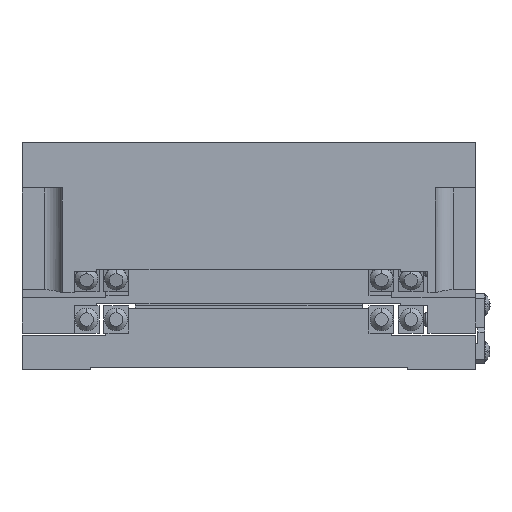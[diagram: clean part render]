
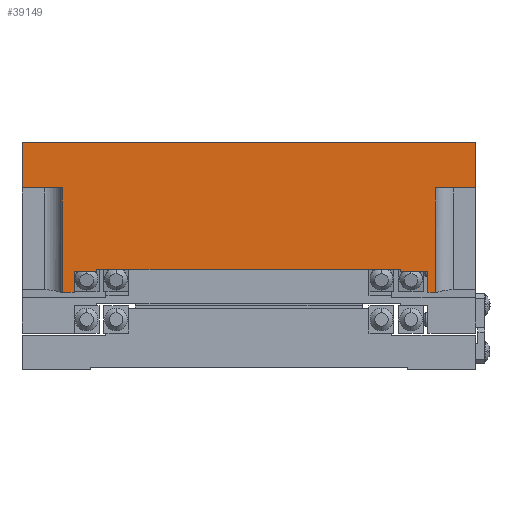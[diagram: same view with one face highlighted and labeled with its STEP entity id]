
A CAD part, left-side view. The second image highlights one B-rep face of the part: STEP entity #39149.
In plain terms, the highlighted planar face has unit normal (-1, 0, 0).
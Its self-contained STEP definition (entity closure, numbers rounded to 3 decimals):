
#19917 = EDGE_CURVE ( 'NONE', #23195, #23204, #57842, .T. ) ;
#19926 = EDGE_CURVE ( 'NONE', #23195, #23205, #57875, .T. ) ;
#19950 = EDGE_CURVE ( 'NONE', #23148, #23225, #57963, .T. ) ;
#19952 = EDGE_CURVE ( 'NONE', #23238, #23148, #57976, .T. ) ;
#19954 = EDGE_CURVE ( 'NONE', #23241, #23238, #57969, .T. ) ;
#19957 = EDGE_CURVE ( 'NONE', #23241, #23252, #57984, .T. ) ;
#19959 = EDGE_CURVE ( 'NONE', #23252, #23254, #57999, .T. ) ;
#19961 = EDGE_CURVE ( 'NONE', #23245, #23254, #58001, .T. ) ;
#19964 = EDGE_CURVE ( 'NONE', #23245, #23204, #58011, .T. ) ;
#19966 = EDGE_CURVE ( 'NONE', #23214, #23205, #58026, .T. ) ;
#19968 = EDGE_CURVE ( 'NONE', #23214, #23267, #58028, .T. ) ;
#19971 = EDGE_CURVE ( 'NONE', #23267, #23271, #58045, .T. ) ;
#19973 = EDGE_CURVE ( 'NONE', #23271, #23273, #58051, .T. ) ;
#19975 = EDGE_CURVE ( 'NONE', #23273, #23279, #58053, .T. ) ;
#19978 = EDGE_CURVE ( 'NONE', #23279, #23282, #58070, .T. ) ;
#19980 = EDGE_CURVE ( 'NONE', #23282, #23225, #58078, .T. ) ;
#23148 = VERTEX_POINT ( 'NONE', #34746 ) ;
#23195 = VERTEX_POINT ( 'NONE', #34903 ) ;
#23204 = VERTEX_POINT ( 'NONE', #34943 ) ;
#23205 = VERTEX_POINT ( 'NONE', #34937 ) ;
#23214 = VERTEX_POINT ( 'NONE', #34966 ) ;
#23225 = VERTEX_POINT ( 'NONE', #34997 ) ;
#23238 = VERTEX_POINT ( 'NONE', #35015 ) ;
#23241 = VERTEX_POINT ( 'NONE', #35021 ) ;
#23245 = VERTEX_POINT ( 'NONE', #35033 ) ;
#23252 = VERTEX_POINT ( 'NONE', #35066 ) ;
#23254 = VERTEX_POINT ( 'NONE', #35071 ) ;
#23267 = VERTEX_POINT ( 'NONE', #35086 ) ;
#23271 = VERTEX_POINT ( 'NONE', #35112 ) ;
#23273 = VERTEX_POINT ( 'NONE', #35116 ) ;
#23279 = VERTEX_POINT ( 'NONE', #35125 ) ;
#23282 = VERTEX_POINT ( 'NONE', #35129 ) ;
#28815 = AXIS2_PLACEMENT_3D ( 'NONE', #56865, #56873, #56874 ) ;
#28979 = ORIENTED_EDGE ( 'NONE', *, *, #19950, .F. ) ;
#28980 = ORIENTED_EDGE ( 'NONE', *, *, #19952, .F. ) ;
#28981 = ORIENTED_EDGE ( 'NONE', *, *, #19954, .F. ) ;
#28982 = ORIENTED_EDGE ( 'NONE', *, *, #19957, .T. ) ;
#28983 = ORIENTED_EDGE ( 'NONE', *, *, #19959, .T. ) ;
#28984 = ORIENTED_EDGE ( 'NONE', *, *, #19961, .F. ) ;
#28985 = ORIENTED_EDGE ( 'NONE', *, *, #19964, .T. ) ;
#28986 = ORIENTED_EDGE ( 'NONE', *, *, #19917, .F. ) ;
#28987 = ORIENTED_EDGE ( 'NONE', *, *, #19926, .T. ) ;
#28988 = ORIENTED_EDGE ( 'NONE', *, *, #19966, .F. ) ;
#28989 = ORIENTED_EDGE ( 'NONE', *, *, #19968, .T. ) ;
#28990 = ORIENTED_EDGE ( 'NONE', *, *, #19971, .T. ) ;
#28991 = ORIENTED_EDGE ( 'NONE', *, *, #19973, .T. ) ;
#28992 = ORIENTED_EDGE ( 'NONE', *, *, #19975, .T. ) ;
#28993 = ORIENTED_EDGE ( 'NONE', *, *, #19978, .T. ) ;
#28994 = ORIENTED_EDGE ( 'NONE', *, *, #19980, .T. ) ;
#34746 = CARTESIAN_POINT ( 'NONE',  ( -50., -10., 50. ) ) ;
#34903 = CARTESIAN_POINT ( 'NONE',  ( -50., -28.5, -38.5 ) ) ;
#34937 = CARTESIAN_POINT ( 'NONE',  ( -50., -28.5, -33.5 ) ) ;
#34943 = CARTESIAN_POINT ( 'NONE',  ( -50., -33., -38.5 ) ) ;
#34966 = CARTESIAN_POINT ( 'NONE',  ( -50., -27.985, -33.5 ) ) ;
#34997 = CARTESIAN_POINT ( 'NONE',  ( -50., -10., 41.1 ) ) ;
#35015 = CARTESIAN_POINT ( 'NONE',  ( -50., 0., 50. ) ) ;
#35021 = CARTESIAN_POINT ( 'NONE',  ( -50., 0., -50. ) ) ;
#35033 = CARTESIAN_POINT ( 'NONE',  ( -50., -33., -41.1 ) ) ;
#35066 = CARTESIAN_POINT ( 'NONE',  ( -50., -10., -50. ) ) ;
#35071 = CARTESIAN_POINT ( 'NONE',  ( -50., -10., -41.1 ) ) ;
#35086 = CARTESIAN_POINT ( 'NONE',  ( -50., -27.985, 33.5 ) ) ;
#35112 = CARTESIAN_POINT ( 'NONE',  ( -50., -28.5, 33.5 ) ) ;
#35116 = CARTESIAN_POINT ( 'NONE',  ( -50., -28.5, 39.5 ) ) ;
#35125 = CARTESIAN_POINT ( 'NONE',  ( -50., -33., 39.5 ) ) ;
#35129 = CARTESIAN_POINT ( 'NONE',  ( -50., -33., 41.1 ) ) ;
#39149 = ADVANCED_FACE ( 'NONE', ( #56867 ), #56871, .T. ) ;
#42523 = EDGE_LOOP ( 'NONE', ( #28979, #28980, #28981, #28982, #28983, #28984, #28985, #28986, #28987, #28988, #28989, #28990, #28991, #28992, #28993, #28994 ) ) ;
#56865 = CARTESIAN_POINT ( 'NONE',  ( -50., 0., 39.5 ) ) ;
#56867 = FACE_OUTER_BOUND ( 'NONE', #42523, .T. ) ;
#56871 = PLANE ( 'NONE',  #28815 ) ;
#56873 = DIRECTION ( 'NONE',  ( -1., 0., 0. ) ) ;
#56874 = DIRECTION ( 'NONE',  ( 0., 0., 1. ) ) ;
#57842 = LINE ( 'NONE', #57846, #62076 ) ;
#57846 = CARTESIAN_POINT ( 'NONE',  ( -50., 0., -38.5 ) ) ;
#57847 = DIRECTION ( 'NONE',  ( 0., -1., 0. ) ) ;
#57875 = LINE ( 'NONE', #57879, #62077 ) ;
#57879 = CARTESIAN_POINT ( 'NONE',  ( -50., -28.5, -38.5 ) ) ;
#57881 = DIRECTION ( 'NONE',  ( 0., 0., 1. ) ) ;
#57951 = CARTESIAN_POINT ( 'NONE',  ( -50., -10., 50. ) ) ;
#57963 = LINE ( 'NONE', #57951, #62093 ) ;
#57969 = LINE ( 'NONE', #57988, #62091 ) ;
#57973 = DIRECTION ( 'NONE',  ( 0., 0., -1. ) ) ;
#57976 = LINE ( 'NONE', #57980, #62092 ) ;
#57980 = CARTESIAN_POINT ( 'NONE',  ( -50., 0., 50. ) ) ;
#57982 = DIRECTION ( 'NONE',  ( 0., -1., 0. ) ) ;
#57984 = LINE ( 'NONE', #57991, #62096 ) ;
#57988 = CARTESIAN_POINT ( 'NONE',  ( -50., 0., 39.5 ) ) ;
#57989 = DIRECTION ( 'NONE',  ( 0., 0., 1. ) ) ;
#57991 = CARTESIAN_POINT ( 'NONE',  ( -50., 0., -50. ) ) ;
#57997 = DIRECTION ( 'NONE',  ( 0., -1., 0. ) ) ;
#57999 = LINE ( 'NONE', #58006, #62087 ) ;
#58001 = LINE ( 'NONE', #58013, #62097 ) ;
#58006 = CARTESIAN_POINT ( 'NONE',  ( -50., -10., -50. ) ) ;
#58008 = DIRECTION ( 'NONE',  ( 0., 0., 1. ) ) ;
#58011 = LINE ( 'NONE', #58017, #62099 ) ;
#58013 = CARTESIAN_POINT ( 'NONE',  ( -50., -33., -41.1 ) ) ;
#58015 = DIRECTION ( 'NONE',  ( 0., 1., 0. ) ) ;
#58017 = CARTESIAN_POINT ( 'NONE',  ( -50., -33., -50. ) ) ;
#58024 = DIRECTION ( 'NONE',  ( 0., 0., 1. ) ) ;
#58026 = LINE ( 'NONE', #58031, #62094 ) ;
#58028 = LINE ( 'NONE', #58041, #62100 ) ;
#58031 = CARTESIAN_POINT ( 'NONE',  ( -50., 0., -33.5 ) ) ;
#58033 = DIRECTION ( 'NONE',  ( 0., -1., 0. ) ) ;
#58035 = CARTESIAN_POINT ( 'NONE',  ( -50., 0., 33.5 ) ) ;
#58041 = CARTESIAN_POINT ( 'NONE',  ( -50., -27.985, -33.5 ) ) ;
#58043 = DIRECTION ( 'NONE',  ( 0., 0., 1. ) ) ;
#58045 = LINE ( 'NONE', #58035, #62102 ) ;
#58049 = DIRECTION ( 'NONE',  ( 0., -1., 0. ) ) ;
#58051 = LINE ( 'NONE', #58057, #62101 ) ;
#58053 = LINE ( 'NONE', #58066, #62103 ) ;
#58057 = CARTESIAN_POINT ( 'NONE',  ( -50., -28.5, 33.5 ) ) ;
#58059 = DIRECTION ( 'NONE',  ( 0., 0., 1. ) ) ;
#58061 = CARTESIAN_POINT ( 'NONE',  ( -50., -33., 39.5 ) ) ;
#58066 = CARTESIAN_POINT ( 'NONE',  ( -50., 0., 39.5 ) ) ;
#58068 = DIRECTION ( 'NONE',  ( 0., -1., 0. ) ) ;
#58070 = LINE ( 'NONE', #58061, #62105 ) ;
#58076 = DIRECTION ( 'NONE',  ( 0., 0., 1. ) ) ;
#58078 = LINE ( 'NONE', #58083, #62104 ) ;
#58083 = CARTESIAN_POINT ( 'NONE',  ( -50., -33., 41.1 ) ) ;
#58085 = DIRECTION ( 'NONE',  ( 0., 1., 0. ) ) ;
#62076 = VECTOR ( 'NONE', #57847, 1000. ) ;
#62077 = VECTOR ( 'NONE', #57881, 1000. ) ;
#62087 = VECTOR ( 'NONE', #58008, 1000. ) ;
#62091 = VECTOR ( 'NONE', #57989, 1000. ) ;
#62092 = VECTOR ( 'NONE', #57982, 1000. ) ;
#62093 = VECTOR ( 'NONE', #57973, 1000. ) ;
#62094 = VECTOR ( 'NONE', #58033, 1000. ) ;
#62096 = VECTOR ( 'NONE', #57997, 1000. ) ;
#62097 = VECTOR ( 'NONE', #58015, 1000. ) ;
#62099 = VECTOR ( 'NONE', #58024, 1000. ) ;
#62100 = VECTOR ( 'NONE', #58043, 1000. ) ;
#62101 = VECTOR ( 'NONE', #58059, 1000. ) ;
#62102 = VECTOR ( 'NONE', #58049, 1000. ) ;
#62103 = VECTOR ( 'NONE', #58068, 1000. ) ;
#62104 = VECTOR ( 'NONE', #58085, 1000. ) ;
#62105 = VECTOR ( 'NONE', #58076, 1000. ) ;
